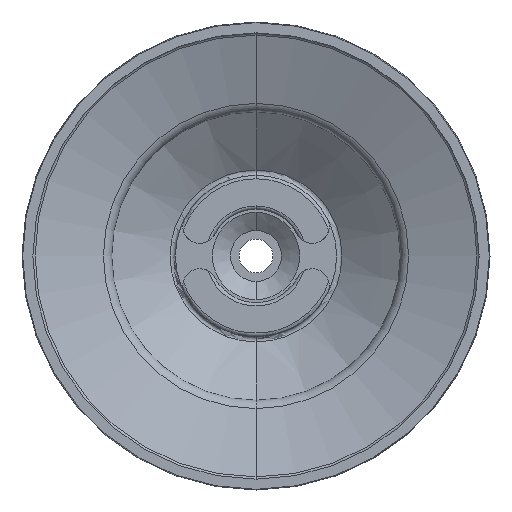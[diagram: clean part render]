
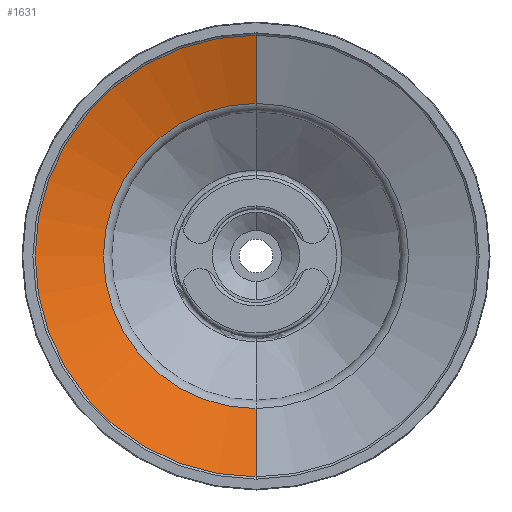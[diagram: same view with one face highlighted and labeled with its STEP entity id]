
A CAD part, front view. The second image highlights one B-rep face of the part: STEP entity #1631.
In plain terms, the highlighted conical face has half-angle 70 degrees and reference radius 17.987 mm.
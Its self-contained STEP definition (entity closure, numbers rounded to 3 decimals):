
#71 = CARTESIAN_POINT ( 'NONE',  ( 0., 3.69, 0. ) ) ;
#97 = DIRECTION ( 'NONE',  ( 0., -0.342, -0.94 ) ) ;
#152 = CARTESIAN_POINT ( 'NONE',  ( 0., 3.69, 0. ) ) ;
#186 = CARTESIAN_POINT ( 'NONE',  ( 0., 3.69, 17.987 ) ) ;
#194 = VERTEX_POINT ( 'NONE', #1121 ) ;
#214 = CIRCLE ( 'NONE', #1538, 26.037 ) ;
#412 = VERTEX_POINT ( 'NONE', #2962 ) ;
#550 = VECTOR ( 'NONE', #1058, 1000. ) ;
#648 = CARTESIAN_POINT ( 'NONE',  ( 0., 3.69, -17.987 ) ) ;
#862 = VERTEX_POINT ( 'NONE', #1824 ) ;
#909 = EDGE_CURVE ( 'NONE', #862, #3108, #2939, .T. ) ;
#943 = ORIENTED_EDGE ( 'NONE', *, *, #2278, .T. ) ;
#1058 = DIRECTION ( 'NONE',  ( 0., -0.342, 0.94 ) ) ;
#1083 = DIRECTION ( 'NONE',  ( 0., 0., 1. ) ) ;
#1121 = CARTESIAN_POINT ( 'NONE',  ( 0., 0.761, 26.037 ) ) ;
#1277 = ORIENTED_EDGE ( 'NONE', *, *, #1986, .F. ) ;
#1287 = DIRECTION ( 'NONE',  ( 0., 1., 0. ) ) ;
#1367 = CARTESIAN_POINT ( 'NONE',  ( 0., 0.761, 0. ) ) ;
#1461 = CARTESIAN_POINT ( 'NONE',  ( 0., 0.761, -26.037 ) ) ;
#1498 = ORIENTED_EDGE ( 'NONE', *, *, #909, .F. ) ;
#1523 = DIRECTION ( 'NONE',  ( 0., 0., -1. ) ) ;
#1538 = AXIS2_PLACEMENT_3D ( 'NONE', #1367, #3676, #1083 ) ;
#1610 = LINE ( 'NONE', #186, #550 ) ;
#1631 = ADVANCED_FACE ( 'NONE', ( #2635 ), #2084, .F. ) ;
#1824 = CARTESIAN_POINT ( 'NONE',  ( 0., 3.69, -17.987 ) ) ;
#1986 = EDGE_CURVE ( 'NONE', #3108, #194, #214, .T. ) ;
#2037 = VECTOR ( 'NONE', #97, 1000. ) ;
#2084 = CONICAL_SURFACE ( 'NONE', #2865, 17.987, 1.222 ) ;
#2208 = CIRCLE ( 'NONE', #3184, 17.987 ) ;
#2278 = EDGE_CURVE ( 'NONE', #412, #194, #1610, .T. ) ;
#2451 = DIRECTION ( 'NONE',  ( 0., 0., 1. ) ) ;
#2635 = FACE_OUTER_BOUND ( 'NONE', #2838, .T. ) ;
#2838 = EDGE_LOOP ( 'NONE', ( #3714, #943, #1277, #1498 ) ) ;
#2865 = AXIS2_PLACEMENT_3D ( 'NONE', #71, #2984, #1523 ) ;
#2939 = LINE ( 'NONE', #648, #2037 ) ;
#2953 = EDGE_CURVE ( 'NONE', #862, #412, #2208, .T. ) ;
#2962 = CARTESIAN_POINT ( 'NONE',  ( 0., 3.69, 17.987 ) ) ;
#2984 = DIRECTION ( 'NONE',  ( 0., -1., 0. ) ) ;
#3108 = VERTEX_POINT ( 'NONE', #1461 ) ;
#3184 = AXIS2_PLACEMENT_3D ( 'NONE', #152, #1287, #2451 ) ;
#3676 = DIRECTION ( 'NONE',  ( 0., 1., 0. ) ) ;
#3714 = ORIENTED_EDGE ( 'NONE', *, *, #2953, .T. ) ;
